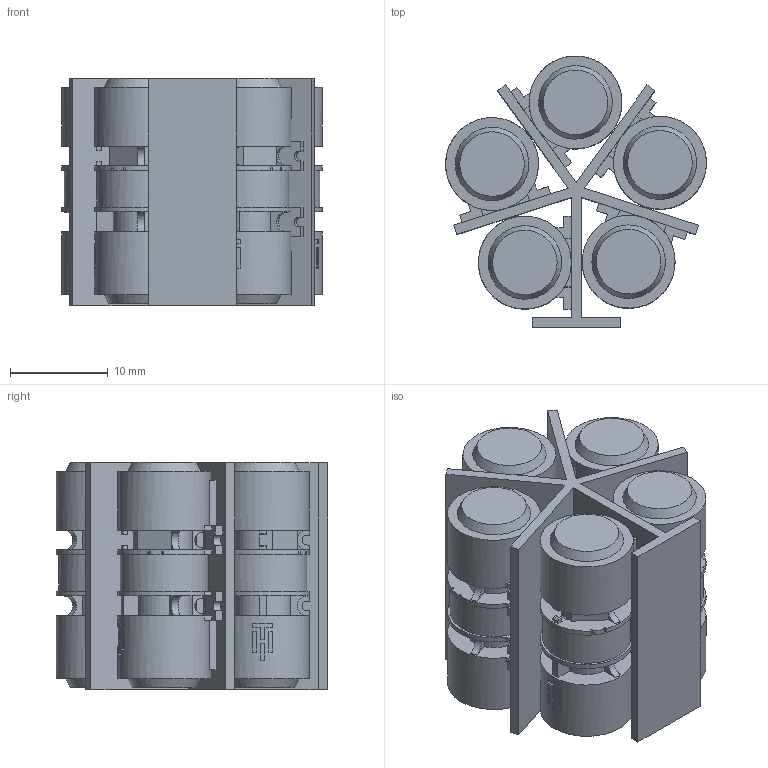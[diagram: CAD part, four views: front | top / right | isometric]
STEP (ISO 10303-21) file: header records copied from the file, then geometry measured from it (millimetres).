
FILE_DESCRIPTION(/* description */ (''),/* implementation_level */ '2;1');
FILE_NAME(/* name */ '5x drake star v5.step',/* time_stamp */ '2023-06-06T15:49:47-04:00',/* author */ (''),/* organization */ (''),/* preprocessor_version */ 'ST-DEVELOPER v19.2',/* originating_system */ 'Autodesk Translation Framework v12.6.0.85',/* authorisation */ '');
FILE_SCHEMA (('AUTOMOTIVE_DESIGN { 1 0 10303 214 3 1 1 }'));
Length unit declared in the file: millimetre
Products named in the file (5): 5x drake star; TacHammer - Drake Volume; TacHammer - Drake Volume_1; Volume_Env; 5x holder
Assembly tree (8 placements, depth 3):
  5x drake star
    TacHammer - Drake Volume
      Volume_Env
    TacHammer - Drake Volume_1  x4
      Volume_Env
    5x holder
Bounding box: 26.67 x 27.78 x 23.25 mm (x, y, z)
Volume: 8776.4 mm3; surface area: 8937.3 mm2
Topology: 6 solids, 6 shells, 901 faces, 2472 edges, 1598 vertices
Faces by surface type: plane 636, cylinder 245, cone 10, torus 10
Full cylindrical faces by diameter (mm): 9 x5, 9.5 x10
Entity records: 6413 total; most frequent: CARTESIAN_POINT 1118, DIRECTION 1088, ORIENTED_EDGE 1080, EDGE_CURVE 540, LINE 408, VECTOR 408, VERTEX_POINT 350, AXIS2_PLACEMENT_3D 340
